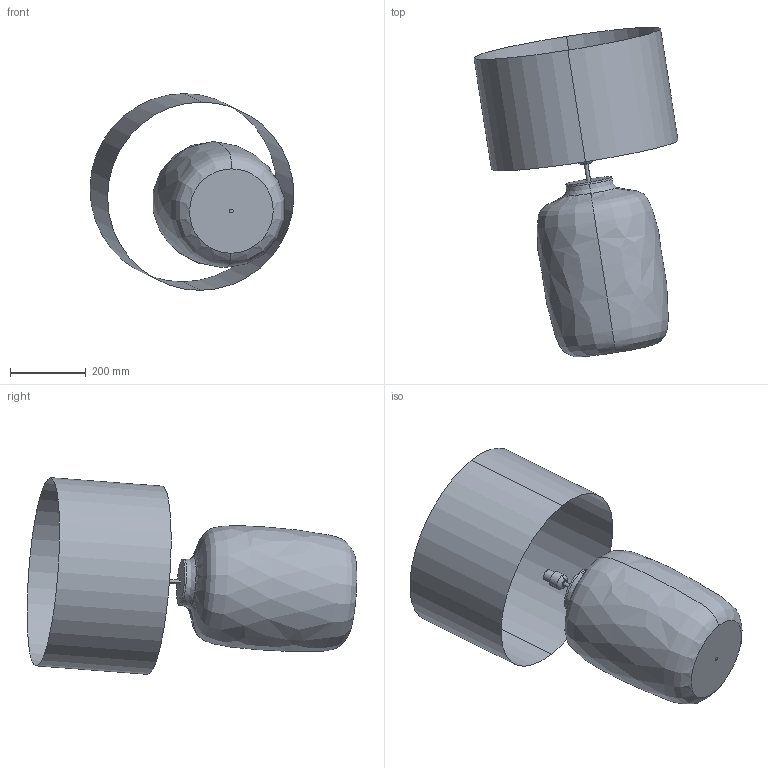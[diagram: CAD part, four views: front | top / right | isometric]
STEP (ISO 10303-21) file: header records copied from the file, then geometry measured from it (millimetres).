
FILE_DESCRIPTION(('STEP AP214'),'1');
FILE_NAME('Laut_table.stp','2018-12-14T15:04:07',(' '),(' '),'Spatial InterOp 3D',' ',' ');
FILE_SCHEMA(('AUTOMOTIVE_DESIGN { 1 0 10303 214 1 1 1 1 }'));
Length unit declared in the file: metre
Products named in the file (5): Laut_table; Projekt10; Laut_D; Laut_D Geometry; Laut
Assembly tree (4 placements, depth 4):
  Laut_table
    Projekt10
    Laut
      Laut_D
        Laut_D Geometry
Bounding box: 540.42 x 873.54 x 521.06 mm (x, y, z)
Volume: 59486.9 mm3; surface area: 1027115.9 mm2
Topology: 1 solids, 6 shells, 20 faces, 49 edges, 34 vertices
Faces by surface type: cylinder 10, revolution 4, plane 4, torus 2
Entity records: 1286 total; most frequent: CARTESIAN_POINT 450, DIRECTION 130, ORIENTED_EDGE 80, AXIS2_PLACEMENT_3D 58, EDGE_CURVE 49, CIRCLE 35, VERTEX_POINT 33, STYLED_ITEM 28
